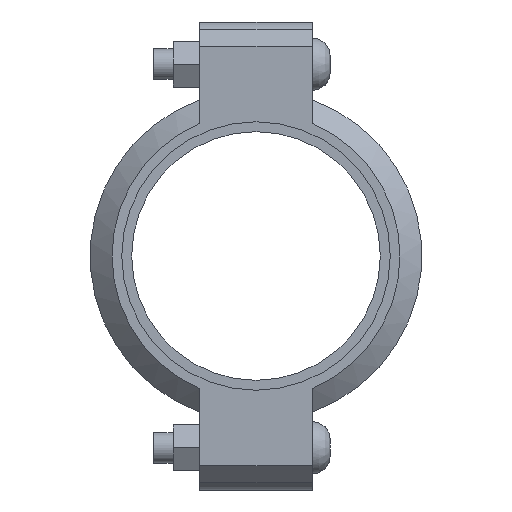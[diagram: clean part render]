
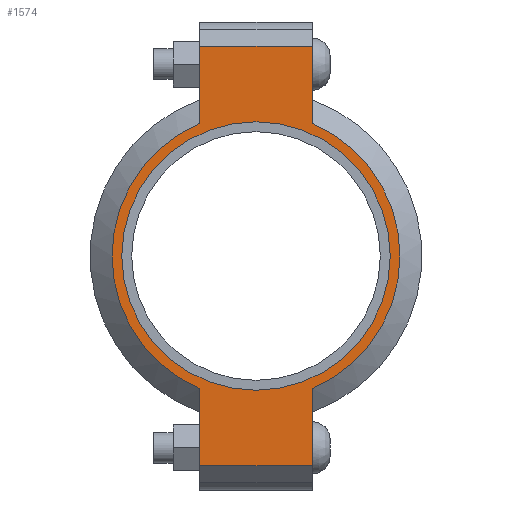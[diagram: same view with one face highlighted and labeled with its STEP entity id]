
A CAD part, left-side view. The second image highlights one B-rep face of the part: STEP entity #1574.
In plain terms, the highlighted planar face has unit normal (-1, 0, 0) as drawn and (0, 0, 1) by its records, which use the part's own axes.
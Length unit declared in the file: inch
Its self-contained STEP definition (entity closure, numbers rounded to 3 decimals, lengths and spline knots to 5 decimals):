
#198=LINE('',#2747,#291);
#206=LINE('',#2783,#299);
#213=LINE('',#2804,#306);
#222=LINE('',#2836,#315);
#223=LINE('',#2840,#316);
#224=LINE('',#2842,#317);
#291=VECTOR('',#2235,0.3937);
#299=VECTOR('',#2251,0.3937);
#306=VECTOR('',#2270,0.3937);
#315=VECTOR('',#2295,0.3937);
#316=VECTOR('',#2300,0.3937);
#317=VECTOR('',#2301,0.3937);
#373=FACE_BOUND('',#551,.T.);
#445=FACE_OUTER_BOUND('',#550,.T.);
#550=EDGE_LOOP('',(#1315,#1316,#1317,#1318,#1319,#1320,#1321,#1322));
#551=EDGE_LOOP('',(#1323));
#623=CIRCLE('',#1793,2.75);
#649=CIRCLE('',#1852,2.95);
#650=CIRCLE('',#1853,2.95);
#715=VERTEX_POINT('',#2563);
#758=VERTEX_POINT('',#2744);
#759=VERTEX_POINT('',#2746);
#770=VERTEX_POINT('',#2778);
#771=VERTEX_POINT('',#2782);
#778=VERTEX_POINT('',#2801);
#779=VERTEX_POINT('',#2803);
#789=VERTEX_POINT('',#2839);
#790=VERTEX_POINT('',#2841);
#871=EDGE_CURVE('',#715,#715,#623,.T.);
#932=EDGE_CURVE('',#759,#758,#198,.T.);
#946=EDGE_CURVE('',#771,#770,#206,.T.);
#956=EDGE_CURVE('',#779,#778,#213,.T.);
#971=EDGE_CURVE('',#771,#758,#222,.T.);
#972=EDGE_CURVE('',#770,#779,#649,.T.);
#973=EDGE_CURVE('',#789,#778,#223,.T.);
#974=EDGE_CURVE('',#789,#790,#224,.T.);
#975=EDGE_CURVE('',#790,#759,#650,.T.);
#1315=ORIENTED_EDGE('',*,*,#971,.F.);
#1316=ORIENTED_EDGE('',*,*,#946,.T.);
#1317=ORIENTED_EDGE('',*,*,#972,.T.);
#1318=ORIENTED_EDGE('',*,*,#956,.T.);
#1319=ORIENTED_EDGE('',*,*,#973,.F.);
#1320=ORIENTED_EDGE('',*,*,#974,.T.);
#1321=ORIENTED_EDGE('',*,*,#975,.T.);
#1322=ORIENTED_EDGE('',*,*,#932,.T.);
#1323=ORIENTED_EDGE('',*,*,#871,.T.);
#1416=PLANE('',#1851);
#1574=ADVANCED_FACE('',(#445,#373),#1416,.T.);
#1793=AXIS2_PLACEMENT_3D('',#2565,#2111,#2112);
#1851=AXIS2_PLACEMENT_3D('',#2837,#2296,#2297);
#1852=AXIS2_PLACEMENT_3D('',#2838,#2298,#2299);
#1853=AXIS2_PLACEMENT_3D('',#2843,#2302,#2303);
#2111=DIRECTION('center_axis',(0.,0.,-1.));
#2112=DIRECTION('ref_axis',(-1.,0.,0.));
#2235=DIRECTION('',(-1.,0.,0.));
#2251=DIRECTION('',(1.,0.,0.));
#2270=DIRECTION('',(1.,0.,0.));
#2295=DIRECTION('',(0.,1.,0.));
#2296=DIRECTION('center_axis',(0.,0.,1.));
#2297=DIRECTION('ref_axis',(1.,0.,0.));
#2298=DIRECTION('center_axis',(0.,0.,1.));
#2299=DIRECTION('ref_axis',(-1.,0.,0.));
#2300=DIRECTION('',(0.,-1.,0.));
#2301=DIRECTION('',(-1.,0.,0.));
#2302=DIRECTION('center_axis',(0.,0.,1.));
#2303=DIRECTION('ref_axis',(-1.,0.,0.));
#2563=CARTESIAN_POINT('',(2.75,0.,1.065));
#2565=CARTESIAN_POINT('Origin',(0.,0.,1.065));
#2744=CARTESIAN_POINT('',(-4.295,1.15,1.065));
#2746=CARTESIAN_POINT('',(-2.71662,1.15,1.065));
#2747=CARTESIAN_POINT('',(-4.795,1.15,1.065));
#2778=CARTESIAN_POINT('',(-2.71662,-1.15,1.065));
#2782=CARTESIAN_POINT('',(-4.295,-1.15,1.065));
#2783=CARTESIAN_POINT('',(4.795,-1.15,1.065));
#2801=CARTESIAN_POINT('',(4.295,-1.15,1.065));
#2803=CARTESIAN_POINT('',(2.71662,-1.15,1.065));
#2804=CARTESIAN_POINT('',(4.795,-1.15,1.065));
#2836=CARTESIAN_POINT('',(-4.295,0.575,1.065));
#2837=CARTESIAN_POINT('Origin',(0.,0.,1.065));
#2838=CARTESIAN_POINT('Origin',(0.,0.,1.065));
#2839=CARTESIAN_POINT('',(4.295,1.15,1.065));
#2840=CARTESIAN_POINT('',(4.295,-0.575,1.065));
#2841=CARTESIAN_POINT('',(2.71662,1.15,1.065));
#2842=CARTESIAN_POINT('',(-4.795,1.15,1.065));
#2843=CARTESIAN_POINT('Origin',(0.,0.,1.065));
